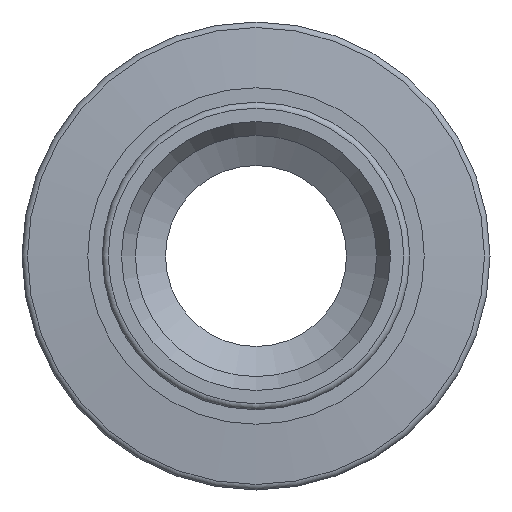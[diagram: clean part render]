
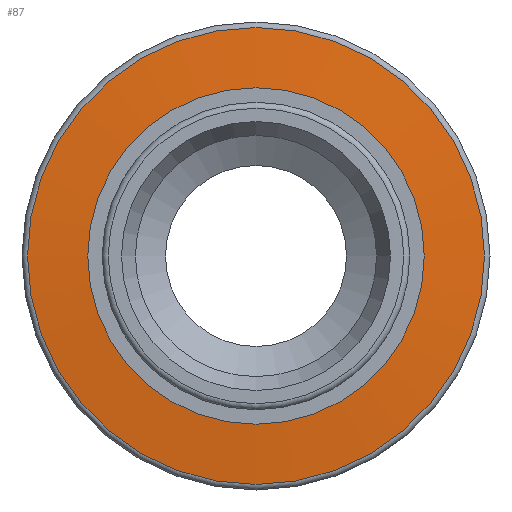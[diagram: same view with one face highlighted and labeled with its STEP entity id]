
A CAD part, front view. The second image highlights one B-rep face of the part: STEP entity #87.
In plain terms, the highlighted conical face has half-angle 85 degrees and reference radius 16.003 mm.
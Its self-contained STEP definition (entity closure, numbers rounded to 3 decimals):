
#87=ADVANCED_FACE('',(#526,#528),#530,.T.);
#526=FACE_OUTER_BOUND('',#527,.T.);
#527=EDGE_LOOP('',(#1077));
#528=FACE_OUTER_BOUND('',#529,.T.);
#529=EDGE_LOOP('',(#1078));
#530=CONICAL_SURFACE('',#531,16.003,1.484);
#531=AXIS2_PLACEMENT_3D('',#532,#533,#534);
#532=CARTESIAN_POINT('',(0.,-43.097,0.));
#533=DIRECTION('',(0.,1.,0.));
#534=DIRECTION('',(0.,0.,1.));
#1077=ORIENTED_EDGE('',*,*,#1267,.F.);
#1078=ORIENTED_EDGE('',*,*,#1268,.T.);
#1267=EDGE_CURVE('',#1446,#1446,#1447,.T.);
#1268=EDGE_CURVE('',#1448,#1448,#1449,.T.);
#1446=VERTEX_POINT('',#1883);
#1447=CIRCLE('',#1884,18.944);
#1448=VERTEX_POINT('',#1888);
#1449=CIRCLE('',#1889,13.063);
#1883=CARTESIAN_POINT('',(0.,-42.84,18.944));
#1884=AXIS2_PLACEMENT_3D('',#1885,#1886,#1887);
#1885=CARTESIAN_POINT('',(0.,-42.84,0.));
#1886=DIRECTION('',(0.,1.,0.));
#1887=DIRECTION('',(0.,0.,1.));
#1888=CARTESIAN_POINT('',(0.,-43.354,13.063));
#1889=AXIS2_PLACEMENT_3D('',#1890,#1891,#1892);
#1890=CARTESIAN_POINT('',(0.,-43.354,0.));
#1891=DIRECTION('',(0.,1.,0.));
#1892=DIRECTION('',(0.,0.,1.));
